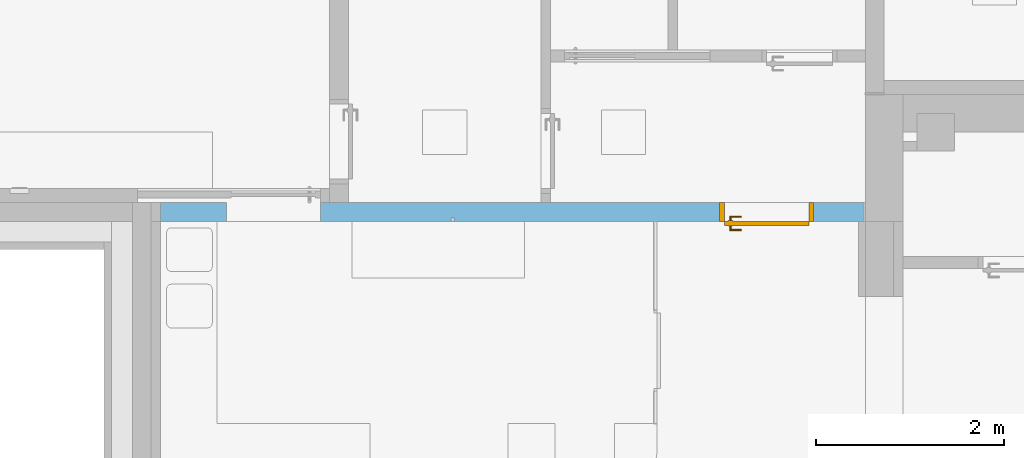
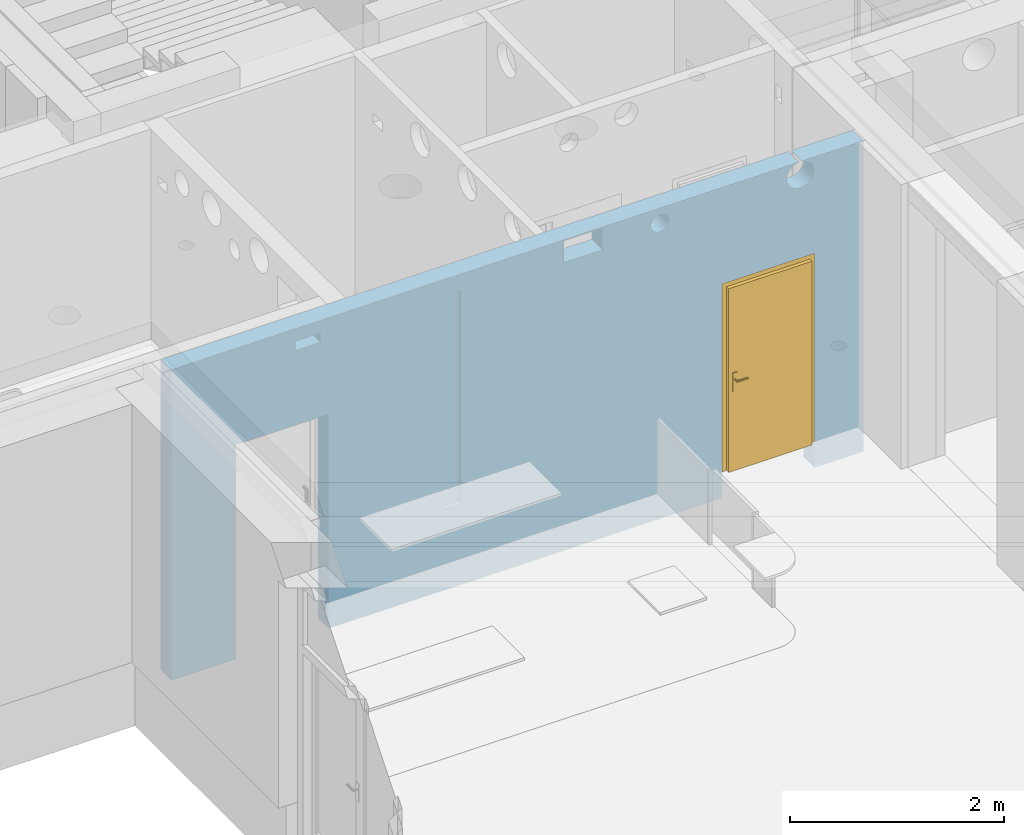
# One storey, part 71 of 140: 1 door, 8 openings, plus 1 element that does not belong to this part.
"""IFC4 building model written with IfcOpenShell, lengths in metres."""

from ifc_helpers import new_model, entity, si_unit, converted_unit, derived_unit, frame, frame_2d, origin, origin_with_axes, place, context, subcontext, project, spatial, polyline, rectangle, outline, extrude, closed_shell, open_shell, surface_model, source, transform, mapped, material, layer, layer_set, layer_usage, type_object, element, fill, save


model = new_model("IFC4")

# Units and contexts
model_context = context("Model", 3, precision=1e-05, world=origin())
body_context = subcontext(model_context, "Body", "Model", "MODEL_VIEW")
ifc_project = project(units=[si_unit("LENGTHUNIT", "METRE"), si_unit("AREAUNIT", "SQUARE_METRE"), si_unit("VOLUMEUNIT", "CUBIC_METRE"), si_unit("MASSUNIT", "GRAM", prefix="KILO"), converted_unit("PLANEANGLEUNIT", "DEGREE", entity("IfcPlaneAngleMeasure", 0.0174532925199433), si_unit("PLANEANGLEUNIT", "RADIAN"), dimensions=[0, 0, 0, 0, 0, 0, 0]), derived_unit("THERMALTRANSMITTANCEUNIT", [(si_unit("POWERUNIT", "WATT"), 1), (si_unit("THERMODYNAMICTEMPERATUREUNIT", "KELVIN"), -1), (si_unit("LENGTHUNIT", "METRE"), -2)]), derived_unit("VOLUMETRICFLOWRATEUNIT", [(si_unit("LENGTHUNIT", "METRE"), 3), (converted_unit("TIMEUNIT", "hour", entity("IfcTimeMeasure", 3600.0), si_unit("TIMEUNIT", "SECOND"), dimensions=[0, 0, 1, 0, 0, 0, 0]), -1), (si_unit("LENGTHUNIT", "METRE"), -1)])], contexts=[model_context])

# Site, building, storey
site_placement = place(None, origin())
site = spatial("IfcSite", under=ifc_project, at=site_placement, Name="3. ASŘ", CompositionType="ELEMENT")
building_placement = place(site_placement, origin())
building = spatial("IfcBuilding", under=site, at=building_placement, Name="Pavilon C", CompositionType="ELEMENT")
storey_placement = place(building_placement, origin())
storey = spatial("IfcBuildingStorey", under=building, at=storey_placement, Name="Půdorys 1.NP", CompositionType="ELEMENT", Elevation=0.0)

# Wall, openings, door
ifc_material = material(Name="ZELEZOBETONOVÁ KCE")
ifc_layer = layer(ifc_material, 0.2)
ifc_layer_set = layer_set([ifc_layer])
ifc_layer_usage = layer_usage(ifc_layer_set, "AXIS2", "POSITIVE", 0.0)
wall_placement = place(storey_placement, frame((29.3, -8.15, -0.3)))
wall = element("IfcWall", 1, at=wall_placement, inside=storey, material=ifc_layer_usage, Name="ZELEZOBETONOVÁ KCE", context=body_context, shape_type="SweptSolid", body=[
    extrude(rectangle(XDim=7.48, YDim=0.2, at=frame_2d((3.74, 0.1), x_axis=(1.0, 0.0))), origin_with_axes(), (0.0, 0.0, 1.0), 3.55),
])
opening_1_placement = place(wall_placement, frame((6.95, 0.2, 0.0), z_axis=(0.0, -1.0, 0.0), x_axis=(0.0, 0.0, 1.0)))
opening_1 = element("IfcOpeningElement", 2, at=opening_1_placement, cuts=wall, Name="Dveřní otvor", ObjectType="Opening", context=body_context, shape_type="SweptSolid", body=[
    extrude(outline(polyline([(0.0, 1.0), (2.45, 1.0), (2.45, 0.0), (0.0, 0.0), (0.0, 1.0)])), origin_with_axes(), (0.0, 0.0, 1.0), 0.2),
])
opening_2_placement = place(wall_placement, frame((1.7, 0.2, 0.0), z_axis=(0.0, -1.0, 0.0), x_axis=(0.0, 0.0, 1.0)))
element("IfcOpeningElement", 3, at=opening_2_placement, cuts=wall, Name="Dveřní otvor", ObjectType="Opening", context=body_context, shape_type="SweptSolid", body=[
    extrude(outline(polyline([(0.0, 1.0), (2.45, 1.0), (2.45, 0.0), (0.0, 0.0), (0.0, 1.0)])), origin_with_axes(), (0.0, 0.0, 1.0), 0.2),
])
opening_3_placement = place(wall_placement, frame((1.33750000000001, 0.0, 3.3), z_axis=(0.0, 1.0, 0.0), x_axis=(0.0, 0.0, 1.0)))
element("IfcOpeningElement", 4, at=opening_3_placement, cuts=wall, Name="ZTI", ObjectType="Opening", context=body_context, shape_type="SweptSolid", body=[
    extrude(outline(polyline([(0.0, 0.275), (0.11, 0.275), (0.11, 0.0), (0.0, 0.0), (0.0, 0.275)])), origin_with_axes(), (0.0, 0.0, 1.0), 0.2),
])
opening_4_placement = place(wall_placement, frame((4.24097424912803, 0.0, 3.29), z_axis=(0.0, 1.0, 0.0), x_axis=(0.0, 0.0, 1.0)))
element("IfcOpeningElement", 5, at=opening_4_placement, cuts=wall, Name="VZT", ObjectType="Opening", context=body_context, shape_type="SweptSolid", body=[
    extrude(outline(polyline([(0.0, 0.42), (0.25, 0.42), (0.25, 0.0), (0.0, 0.0), (0.0, 0.42)])), origin_with_axes(), (0.0, 0.0, 1.0), 0.2),
])
opening_5_placement = place(wall_placement, frame((5.18002267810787, -1.30967237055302e-13, 3.28), z_axis=(0.0, 1.0, 0.0), x_axis=(0.0, 0.0, 1.0)))
element("IfcOpeningElement", 6, at=opening_5_placement, cuts=wall, Name="ZTI", ObjectType="Opening", context=body_context, shape_type="SweptSolid", body=[
    extrude(outline(polyline([(0.1, 0.0), (0.0895471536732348, 0.000547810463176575), (0.0792088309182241, 0.00218523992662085), (0.0690983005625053, 0.00489434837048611), (0.0593263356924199, 0.00864545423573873), (0.05, 0.0133974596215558), (0.0412214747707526, 0.0190983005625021), (0.0330869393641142, 0.025685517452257), (0.0256855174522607, 0.0330869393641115), (0.0190983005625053, 0.0412214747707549), (0.0133974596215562, 0.05), (0.00864545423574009, 0.0593263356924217), (0.00489434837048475, 0.0690983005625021), (0.00218523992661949, 0.0792088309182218), (0.000547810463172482, 0.0895471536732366), (0.0, 0.1), (0.000547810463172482, 0.110452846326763), (0.00218523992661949, 0.120791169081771), (0.00489434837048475, 0.130901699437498), (0.00864545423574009, 0.140673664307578), (0.0133974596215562, 0.15), (0.0190983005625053, 0.158778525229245), (0.0256855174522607, 0.166913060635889), (0.0330869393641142, 0.174314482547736), (0.0412214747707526, 0.180901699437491), (0.05, 0.186602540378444), (0.0593263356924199, 0.191354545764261), (0.0690983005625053, 0.195105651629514), (0.0792088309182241, 0.197814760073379), (0.0895471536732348, 0.199452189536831), (0.1, 0.2), (0.110452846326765, 0.199452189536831), (0.120791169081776, 0.197814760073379), (0.130901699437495, 0.195105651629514), (0.14067366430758, 0.191354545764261), (0.15, 0.186602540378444), (0.158778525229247, 0.180901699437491), (0.166913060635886, 0.174314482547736), (0.174314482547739, 0.166913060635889), (0.180901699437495, 0.158778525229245), (0.186602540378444, 0.15), (0.19135454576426, 0.140673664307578), (0.195105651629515, 0.130901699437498), (0.197814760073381, 0.120791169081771), (0.199452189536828, 0.110452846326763), (0.2, 0.1), (0.199452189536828, 0.0895471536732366), (0.197814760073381, 0.0792088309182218), (0.195105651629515, 0.0690983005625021), (0.19135454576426, 0.0593263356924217), (0.186602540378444, 0.05), (0.180901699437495, 0.0412214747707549), (0.174314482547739, 0.0330869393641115), (0.166913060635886, 0.025685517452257), (0.158778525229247, 0.0190983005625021), (0.15, 0.0133974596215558), (0.14067366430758, 0.00864545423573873), (0.130901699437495, 0.00489434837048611), (0.120791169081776, 0.00218523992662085), (0.110452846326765, 0.000547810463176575), (0.1, 0.0)])), origin_with_axes(), (0.0, 0.0, 1.0), 0.2),
])
opening_6_placement = place(wall_placement, frame((6.94978834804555, 0.200000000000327, 3.25), z_axis=(0.0, -1.0, 0.0), x_axis=(0.0, 0.0, 1.0)))
element("IfcOpeningElement", 7, at=opening_6_placement, cuts=wall, Name="VZT", ObjectType="Opening", context=body_context, shape_type="SweptSolid", body=[
    extrude(outline(polyline([(0.15, 0.3), (0.165679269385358, 0.299178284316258), (0.181186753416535, 0.296722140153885), (0.196352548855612, 0.292658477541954), (0.211010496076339, 0.287031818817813), (0.224999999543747, 0.279903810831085), (0.238167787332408, 0.271352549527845), (0.250369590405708, 0.261471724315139), (0.261471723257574, 0.250369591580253), (0.271352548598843, 0.23816778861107), (0.27990381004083, 0.225000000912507), (0.287031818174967, 0.211010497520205), (0.29265847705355, 0.196352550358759), (0.296722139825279, 0.181186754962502), (0.299178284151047, 0.165679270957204), (0.3, 0.150000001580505), (0.299178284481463, 0.13432073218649), (0.296722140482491, 0.118813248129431), (0.292658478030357, 0.103647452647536), (0.287031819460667, 0.0889895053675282), (0.279903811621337, 0.0750000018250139), (0.27135255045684, 0.0618322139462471), (0.261471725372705, 0.0496304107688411), (0.250369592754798, 0.0385282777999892), (0.238167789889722, 0.0286474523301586), (0.225000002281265, 0.0200961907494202), (0.211010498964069, 0.0129681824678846), (0.196352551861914, 0.00734152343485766), (0.181186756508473, 0.00327786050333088), (0.165679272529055, 0.000821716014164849), (0.149999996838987, 0.0), (0.134320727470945, 0.000821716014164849), (0.118813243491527, 0.00327786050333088), (0.103647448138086, 0.00734152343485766), (0.088989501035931, 0.0129681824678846), (0.0749999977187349, 0.0200961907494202), (0.0618322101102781, 0.0286474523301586), (0.0496304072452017, 0.0385282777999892), (0.0385282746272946, 0.0496304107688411), (0.0286474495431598, 0.0618322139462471), (0.0200961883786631, 0.0750000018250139), (0.0129681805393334, 0.0889895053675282), (0.0073415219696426, 0.103647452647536), (0.00327785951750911, 0.118813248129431), (0.000821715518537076, 0.13432073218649), (0.0, 0.150000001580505), (0.000821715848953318, 0.165679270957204), (0.0032778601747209, 0.181186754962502), (0.00734152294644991, 0.196352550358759), (0.0129681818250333, 0.211010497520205), (0.0200961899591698, 0.225000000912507), (0.028647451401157, 0.23816778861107), (0.038528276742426, 0.250369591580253), (0.0496304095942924, 0.261471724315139), (0.0618322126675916, 0.271352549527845), (0.075000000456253, 0.279903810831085), (0.0889895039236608, 0.287031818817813), (0.103647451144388, 0.292658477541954), (0.118813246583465, 0.296722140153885), (0.134320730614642, 0.299178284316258), (0.15, 0.3)])), origin_with_axes(), (0.0, 0.0, 1.0), 0.2),
])
opening_7_placement = place(wall_placement, frame((2.94030992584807, 8.59998767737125e-07, 0.93), z_axis=(0.0, 1.0, 0.0), x_axis=(0.0, 0.0, 1.0)))
element("IfcOpeningElement", 8, at=opening_7_placement, cuts=wall, Name="Prostup stěnou", ObjectType="Opening", context=body_context, shape_type="SweptSolid", body=[
    extrude(outline(polyline([(0.0, 0.19), (0.04, 0.19), (0.04, 0.0), (0.0, 0.0), (0.0, 0.19)])), origin_with_axes(), (0.0, 0.0, 1.0), 0.04),
])
opening_8_placement = place(wall_placement, frame((3.09030992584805, 8.59998744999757e-07, 0.93), z_axis=(0.0, 1.0, 0.0), x_axis=(0.0, 0.0, 1.0)))
element("IfcOpeningElement", 9, at=opening_8_placement, cuts=wall, Name="Prostup stěnou", ObjectType="Opening", context=body_context, shape_type="SweptSolid", body=[
    extrude(outline(polyline([(0.0, 0.04), (2.44, 0.04), (2.44, 0.0), (0.0, 0.0), (0.0, 0.04)])), origin_with_axes(), (0.0, 0.0, 1.0), 0.04),
])
door_type = type_object("IfcDoorType", Name="II.D07", OperationType="NOTDEFINED", ParameterTakesPrecedence=False, PredefinedType="DOOR")
shared_shape = source(origin_with_axes(), body_context, "Body", "SurfaceModel", [
    surface_model("IfcShellBasedSurfaceModel", [(0.0, 0.2, 2.149), (0.0, 0.2, -5.6843418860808e-17), (0.05, 0.2, -5.6843418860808e-17), (0.05, 0.2, 2.149), (0.0, 0.0, -5.6843418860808e-17), (0.0, 2.55795384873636e-16, 2.149), (0.05, 2.55795384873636e-16, 2.149), (0.05, 0.0, -5.6843418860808e-17)], [closed_shell([[[0, 1, 2, 3]], [[4, 5, 6, 7]], [[1, 0, 5, 4]], [[2, 1, 4, 7]], [[3, 2, 7, 6]], [[0, 3, 6, 5]]], orient=[[False], [False], [False], [False], [False], [False]])]),
    surface_model("IfcShellBasedSurfaceModel", [(0.95, 0.2, 2.149), (0.95, 0.2, -5.6843418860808e-17), (1.0, 0.2, -5.6843418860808e-17), (1.0, 0.2, 2.149), (0.95, 0.0, -5.6843418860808e-17), (0.95, 2.55795384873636e-16, 2.149), (1.0, 2.55795384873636e-16, 2.149), (1.0, 0.0, -5.6843418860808e-17)], [closed_shell([[[0, 1, 2, 3]], [[4, 5, 6, 7]], [[1, 0, 5, 4]], [[2, 1, 4, 7]], [[3, 2, 7, 6]], [[0, 3, 6, 5]]], orient=[[False], [False], [False], [False], [False], [False]])]),
    surface_model("IfcShellBasedSurfaceModel", [(0.05, 0.2, 2.149), (0.05, 0.2, 2.099), (0.95, 0.2, 2.099), (0.95, 0.2, 2.149), (0.05, 2.55795384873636e-16, 2.099), (0.05, 2.55795384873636e-16, 2.149), (0.95, 2.55795384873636e-16, 2.149), (0.95, 2.55795384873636e-16, 2.099)], [closed_shell([[[0, 1, 2, 3]], [[4, 5, 6, 7]], [[1, 0, 5, 4]], [[2, 1, 4, 7]], [[3, 2, 7, 6]], [[0, 3, 6, 5]]], orient=[[False], [False], [False], [False], [False], [False]])]),
    surface_model("IfcShellBasedSurfaceModel", [(0.05, 0.24, 2.099), (0.05, 0.24, -5.6843418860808e-17), (0.95, 0.24, -5.6843418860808e-17), (0.95, 0.24, 2.099), (0.05, 0.2, -5.6843418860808e-17), (0.05, 0.2, 2.099), (0.95, 0.2, 2.099), (0.95, 0.2, -5.6843418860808e-17)], [closed_shell([[[0, 1, 2, 3]], [[4, 5, 6, 7]], [[1, 0, 5, 4]], [[2, 1, 4, 7]], [[3, 2, 7, 6]], [[0, 3, 6, 5]]], orient=[[False], [False], [False], [False], [False], [False]])]),
    surface_model("IfcShellBasedSurfaceModel", [(0.86, 0.2, 1.125), (0.86, 0.2, 0.91), (0.91, 0.2, 0.91), (0.91, 0.2, 1.125), (0.86, 0.19, 0.91), (0.86, 0.19, 1.125), (0.91, 0.19, 1.125), (0.91, 0.19, 0.91)], [closed_shell([[[0, 1, 2, 3]], [[4, 5, 6, 7]], [[1, 0, 5, 4]], [[2, 1, 4, 7]], [[3, 2, 7, 6]], [[0, 3, 6, 5]]], orient=[[False], [False], [False], [False], [False], [False]])]),
    surface_model("IfcShellBasedSurfaceModel", [(0.885, 0.19, 1.06), (0.88, 0.19, 1.05866025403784), (0.876339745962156, 0.19, 1.055), (0.875, 0.19, 1.05), (0.876339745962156, 0.19, 1.045), (0.88, 0.19, 1.04133974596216), (0.885, 0.19, 1.04), (0.89, 0.19, 1.04133974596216), (0.893660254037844, 0.19, 1.045), (0.895, 0.19, 1.05), (0.893660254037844, 0.19, 1.055), (0.89, 0.19, 1.05866025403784), (0.89, 0.145, 1.05866025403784), (0.885, 0.15, 1.06), (0.893660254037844, 0.141339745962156, 1.055), (0.895, 0.14, 1.05), (0.893660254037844, 0.141339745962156, 1.045), (0.89, 0.145, 1.04133974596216), (0.885, 0.15, 1.04), (0.88, 0.155, 1.04133974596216), (0.876339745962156, 0.158660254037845, 1.045), (0.875, 0.16, 1.05), (0.876339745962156, 0.158660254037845, 1.055), (0.88, 0.155, 1.05866025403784), (0.77, 0.145, 1.05866025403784), (0.77, 0.15, 1.06), (0.77, 0.141339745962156, 1.055), (0.77, 0.14, 1.05), (0.77, 0.141339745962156, 1.045), (0.77, 0.145, 1.04133974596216), (0.77, 0.15, 1.04), (0.77, 0.155, 1.04133974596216), (0.77, 0.158660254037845, 1.045), (0.77, 0.16, 1.05), (0.77, 0.158660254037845, 1.055), (0.77, 0.155, 1.05866025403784)], [open_shell([[[0, 1, 2, 3, 4, 5, 6, 7, 8, 9, 10, 11]], [[0, 11, 12, 13]], [[11, 10, 14, 12]], [[10, 9, 15, 14]], [[9, 8, 16, 15]], [[8, 7, 17, 16]], [[7, 6, 18, 17]], [[6, 5, 19, 18]], [[5, 4, 20, 19]], [[4, 3, 21, 20]], [[3, 2, 22, 21]], [[2, 1, 23, 22]], [[1, 0, 13, 23]], [[13, 12, 24, 25]], [[12, 14, 26, 24]], [[14, 15, 27, 26]], [[15, 16, 28, 27]], [[16, 17, 29, 28]], [[17, 18, 30, 29]], [[18, 19, 31, 30]], [[19, 20, 32, 31]], [[20, 21, 33, 32]], [[21, 22, 34, 33]], [[22, 23, 35, 34]], [[23, 13, 25, 35]]], orient=[[False], [False], [False], [False], [False], [False], [False], [False], [False], [False], [False], [False], [False], [False], [False], [False], [False], [False], [False], [False], [False], [False], [False], [False], [False]])]),
    surface_model("IfcShellBasedSurfaceModel", [(0.86, 0.24, 1.125), (0.91, 0.24, 1.125), (0.91, 0.24, 0.91), (0.86, 0.24, 0.91), (0.86, 0.25, 0.91), (0.91, 0.25, 0.91), (0.91, 0.25, 1.125), (0.86, 0.25, 1.125)], [closed_shell([[[0, 1, 2, 3]], [[4, 5, 6, 7]], [[3, 4, 7, 0]], [[2, 5, 4, 3]], [[1, 6, 5, 2]], [[0, 7, 6, 1]]], orient=[[False], [False], [False], [False], [False], [False]])]),
    surface_model("IfcShellBasedSurfaceModel", [(0.885, 0.25, 1.06), (0.89, 0.25, 1.05866025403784), (0.893660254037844, 0.25, 1.055), (0.895, 0.25, 1.05), (0.893660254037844, 0.25, 1.045), (0.89, 0.25, 1.04133974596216), (0.885, 0.25, 1.04), (0.88, 0.25, 1.04133974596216), (0.876339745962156, 0.25, 1.045), (0.875, 0.25, 1.05), (0.876339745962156, 0.25, 1.055), (0.88, 0.25, 1.05866025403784), (0.885, 0.29, 1.06), (0.89, 0.295, 1.05866025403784), (0.893660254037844, 0.298660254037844, 1.055), (0.895, 0.3, 1.05), (0.893660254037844, 0.298660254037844, 1.045), (0.89, 0.295, 1.04133974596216), (0.885, 0.29, 1.04), (0.88, 0.285, 1.04133974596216), (0.876339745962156, 0.281339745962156, 1.045), (0.875, 0.28, 1.05), (0.876339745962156, 0.281339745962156, 1.055), (0.88, 0.285, 1.05866025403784), (0.77, 0.29, 1.06), (0.77, 0.295, 1.05866025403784), (0.77, 0.298660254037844, 1.055), (0.77, 0.3, 1.05), (0.77, 0.298660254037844, 1.045), (0.77, 0.295, 1.04133974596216), (0.77, 0.29, 1.04), (0.77, 0.285, 1.04133974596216), (0.77, 0.281339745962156, 1.045), (0.77, 0.28, 1.05), (0.77, 0.281339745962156, 1.055), (0.77, 0.285, 1.05866025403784)], [open_shell([[[0, 1, 2, 3, 4, 5, 6, 7, 8, 9, 10, 11]], [[0, 12, 13, 1]], [[1, 13, 14, 2]], [[2, 14, 15, 3]], [[3, 15, 16, 4]], [[4, 16, 17, 5]], [[5, 17, 18, 6]], [[6, 18, 19, 7]], [[7, 19, 20, 8]], [[8, 20, 21, 9]], [[9, 21, 22, 10]], [[10, 22, 23, 11]], [[11, 23, 12, 0]], [[12, 24, 25, 13]], [[13, 25, 26, 14]], [[14, 26, 27, 15]], [[15, 27, 28, 16]], [[16, 28, 29, 17]], [[17, 29, 30, 18]], [[18, 30, 31, 19]], [[19, 31, 32, 20]], [[20, 32, 33, 21]], [[21, 33, 34, 22]], [[22, 34, 35, 23]], [[23, 35, 24, 12]]], orient=[[False], [False], [False], [False], [False], [False], [False], [False], [False], [False], [False], [False], [False], [False], [False], [False], [False], [False], [False], [False], [False], [False], [False], [False], [False]])]),
])
door_placement = place(opening_1_placement, frame((0.301, 0.0, 0.0), z_axis=(1.0, 0.0, 0.0), x_axis=(0.0, 1.0, -1.22464679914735e-16)))
door = element("IfcDoor", 10, at=door_placement, inside=storey, type_object=door_type, Name="II.D07", OverallHeight=2.45, OverallWidth=1.0, context=body_context, shape_type="MappedRepresentation", body=[
    mapped(shared_shape, transform((0.0, 0.0, 0.0), x_axis=(1.0, 0.0, 0.0), y_axis=(0.0, 1.0, 0.0), z_axis=(0.0, 0.0, 1.0), scale=1.0)),
])
fill(opening_1, door)

save(model, "model.ifc")
